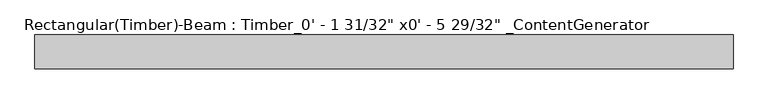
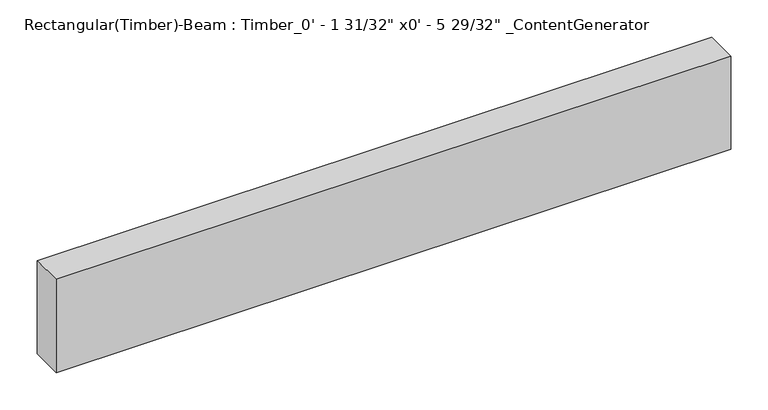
"""IFC4 building model written with IfcOpenShell, lengths in millimetres: beam geometry."""

import ifcopenshell
import ifcopenshell.guid

model = None  # the IFC model being written
_history = None  # IfcOwnerHistory: only IFC2X3 demands one
_inside = {}  # id of a spatial element -> (the spatial element, [elements in it])
_under = {}  # id of a project, library or spatial element -> (it, [spatial elements below it])
_declared = {}  # id of a project -> (the project, [libraries it declares])
_typed = {}  # id of a type object -> (the type object, [elements of that type])
_made_of = {}  # id of a material, layer set ... -> (it, [elements and type objects made of it])


def new_model(schema):
    """Start an empty IFC model of exactly this schema.

    Asked for "IFC4X3", IfcOpenShell would pick the latest addendum, in which some entities
    have other attributes; the version numbers below select the first issue.
    IFC2X3 requires an IfcOwnerHistory on every rooted entity: one is made here for all.
    """
    global model, _history
    if schema == "IFC4X3":
        model = ifcopenshell.file(schema_version=(4, 3, 0, 0))
    else:
        model = ifcopenshell.file(schema=schema)
    _inside.clear()
    _under.clear()
    _declared.clear()
    _typed.clear()
    _made_of.clear()
    _history = None
    if model.schema == "IFC2X3":
        org = make("IfcOrganization", Name="unknown")
        user = make(
            "IfcPersonAndOrganization",
            ThePerson=make("IfcPerson", FamilyName="unknown"),
            TheOrganization=org,
        )
        app = make(
            "IfcApplication",
            ApplicationDeveloper=org,
            Version="unknown",
            ApplicationFullName="unknown",
            ApplicationIdentifier="unknown",
        )
        _history = make(
            "IfcOwnerHistory",
            OwningUser=user,
            OwningApplication=app,
            ChangeAction="ADDED",
            CreationDate=0,
        )
    return model


def make(cls, **values):
    """One entity of the class cls with the attributes given. An attribute that is None is left unset."""
    return model.create_entity(
        cls, **{name: value for name, value in values.items() if value is not None}
    )


def rooted(cls, **values):
    """An entity with a GlobalId (a new one), such as an element, a storey or a relation."""
    return make(cls, GlobalId=ifcopenshell.guid.new(), OwnerHistory=_history, **values)


def si_unit(unit_type, name, prefix=None):
    """IfcSIUnit, for example si_unit("LENGTHUNIT", "METRE", prefix="MILLI")."""
    return make("IfcSIUnit", UnitType=unit_type, Prefix=prefix, Name=name)


def assignment(units):
    """IfcUnitAssignment: the units of a project."""
    return None if units is None else make("IfcUnitAssignment", Units=units)


def point(xyz):
    """IfcCartesianPoint."""
    return None if xyz is None else make("IfcCartesianPoint", Coordinates=xyz)


def direction(xyz):
    """IfcDirection."""
    return None if xyz is None else make("IfcDirection", DirectionRatios=xyz)


def frame(location, z_axis=None, x_axis=None):
    """IfcAxis2Placement3D, a coordinate frame: its origin and axes. An axis left out is left unset."""
    return make(
        "IfcAxis2Placement3D",
        Location=point(location),
        Axis=direction(z_axis),
        RefDirection=direction(x_axis),
    )


def origin():
    """The frame at (0, 0, 0) with its axes left unset."""
    return frame((0.0, 0.0, 0.0))


def place(relative_to, where):
    """IfcLocalPlacement: puts the frame where relative to a parent placement (None: the world)."""
    return make(
        "IfcLocalPlacement", PlacementRelTo=relative_to, RelativePlacement=where
    )


def context(
    kind, dimensions, precision=None, world=None, true_north=None, identifier=None
):
    """IfcGeometricRepresentationContext, for example the 3D "Model" context."""
    return make(
        "IfcGeometricRepresentationContext",
        ContextIdentifier=identifier,
        ContextType=kind,
        CoordinateSpaceDimension=dimensions,
        Precision=precision,
        WorldCoordinateSystem=world,
        TrueNorth=true_north,
    )


def project(units=None, contexts=None):
    """IfcProject with its units and contexts."""
    return rooted(
        "IfcProject",
        Name="project",
        RepresentationContexts=contexts,
        UnitsInContext=assignment(units),
    )


def spatial(cls, under=None, at=None, **own):
    """A site, building, storey or space (cls), placed at a placement, below another one or the project."""
    s = rooted(cls, ObjectPlacement=at, **own)
    if under is not None:
        _under.setdefault(under.id(), (under, []))[1].append(s)
    return s


def polyline(points):
    """IfcPolyline through the points."""
    return make("IfcPolyline", Points=[point(p) for p in points])


def outline(outer, holes=None, kind="AREA"):
    """IfcArbitraryClosedProfileDef: a profile drawn as a closed curve; with holes, ...WithVoids."""
    if holes is None:
        return make("IfcArbitraryClosedProfileDef", ProfileType=kind, OuterCurve=outer)
    return make(
        "IfcArbitraryProfileDefWithVoids",
        ProfileType=kind,
        OuterCurve=outer,
        InnerCurves=holes,
    )


def extrude(swept, where, along, depth):
    """IfcExtrudedAreaSolid: the profile swept, set in the frame where, extruded along a direction by depth."""
    return make(
        "IfcExtrudedAreaSolid",
        SweptArea=swept,
        Position=where,
        ExtrudedDirection=direction(along),
        Depth=depth,
    )


def shape(context_of_items, identifier, shape_type, items):
    """IfcShapeRepresentation: the items that make up one representation, for example the "Body"."""
    return make(
        "IfcShapeRepresentation",
        ContextOfItems=context_of_items,
        RepresentationIdentifier=identifier,
        RepresentationType=shape_type,
        Items=items,
    )


def source(mapping_origin, context_of_items, identifier, shape_type, items):
    """IfcRepresentationMap: a shape defined once, which mapped items show again and again."""
    return make(
        "IfcRepresentationMap",
        MappingOrigin=mapping_origin,
        MappedRepresentation=shape(context_of_items, identifier, shape_type, items),
    )


def transform(
    local_origin,
    x_axis=None,
    y_axis=None,
    z_axis=None,
    scale=None,
    scale2=None,
    scale3=None,
    uniform=True,
):
    """IfcCartesianTransformationOperator3D, or its non-uniform kind. x_axis, y_axis, z_axis: its Axis1, 2, 3."""
    if uniform:
        return make(
            "IfcCartesianTransformationOperator3D",
            Axis1=direction(x_axis),
            Axis2=direction(y_axis),
            LocalOrigin=point(local_origin),
            Scale=scale,
            Axis3=direction(z_axis),
        )
    return make(
        "IfcCartesianTransformationOperator3DnonUniform",
        Axis1=direction(x_axis),
        Axis2=direction(y_axis),
        LocalOrigin=point(local_origin),
        Scale=scale,
        Axis3=direction(z_axis),
        Scale2=scale2,
        Scale3=scale3,
    )


def mapped(mapping_source, mapping_target):
    """IfcMappedItem: shows the shape of a source again, moved by a transform."""
    return make(
        "IfcMappedItem", MappingSource=mapping_source, MappingTarget=mapping_target
    )


def made_of(thing, what):
    """Note that an element or type object is made of a material, layer set ...; save() writes the relation."""
    if what is not None:
        _made_of.setdefault(what.id(), (what, []))[1].append(thing)
    return thing


def element(
    cls,
    number,
    at=None,
    inside=None,
    cuts=None,
    type_object=None,
    material=None,
    context=None,
    identifier="Body",
    shape_type=None,
    held_by="IfcProductDefinitionShape",
    body=None,
    shapes=None,
    **own,
):
    """One element of the class cls, such as IfcWall. Its Tag is "e" and its number.

    at: its placement. inside: the storey or other place that contains it. cuts: it is an
    opening in that element (IfcRelVoidsElement). A single representation is given by context,
    identifier, shape_type and body (its items); several are given by shapes. held_by: the class
    of the entity that holds the representations. save() writes the other relations.
    """
    e = rooted(cls, Tag="e%d" % number, ObjectPlacement=at, **own)
    if body is not None:
        shapes = [shape(context, identifier, shape_type, body)]
    if shapes is not None:
        e.Representation = make(held_by, Representations=shapes)
    if inside is not None:
        _inside.setdefault(inside.id(), (inside, []))[1].append(e)
    if cuts is not None:
        rooted(
            "IfcRelVoidsElement", RelatingBuildingElement=cuts, RelatedOpeningElement=e
        )
    if type_object is not None:
        _typed.setdefault(type_object.id(), (type_object, []))[1].append(e)
    return made_of(e, material)


def aggregate(whole, parts):
    """IfcRelAggregates: a whole, such as a stair, and the parts it consists of."""
    return rooted("IfcRelAggregates", RelatingObject=whole, RelatedObjects=parts)


def save(model, path):
    """Write the relations noted so far, then the file.

    IfcRelAggregates (storeys below a building ...), IfcRelContainedInSpatialStructure (elements
    in a storey), IfcRelDefinesByType, IfcRelAssociatesMaterial and IfcRelDeclares: one each for
    every whole, place, type object, material and project.
    """
    for whole, parts in _under.values():
        aggregate(whole, parts)
    for where, things in _inside.values():
        rooted(
            "IfcRelContainedInSpatialStructure",
            RelatedElements=things,
            RelatingStructure=where,
        )
    for kind, things in _typed.values():
        rooted("IfcRelDefinesByType", RelatedObjects=things, RelatingType=kind)
    for what, things in _made_of.values():
        rooted("IfcRelAssociatesMaterial", RelatedObjects=things, RelatingMaterial=what)
    for by, libraries in _declared.values():
        rooted("IfcRelDeclares", RelatingContext=by, RelatedDefinitions=libraries)
    model.write(path)


def beam_7e436a35(model_context):
    return source(origin(), model_context, "Body", "SweptSolid", [
        extrude(outline(polyline([(522.0284875, 25.4), (522.0284875, -25.4), (-522.0284875, -25.4), (-522.0284875, 25.4), (522.0284875, 25.4)])), frame((0.0, 0.0, -76.2), z_axis=(0.0, 0.0, 1.0), x_axis=(1.0, 0.0, 0.0)), (0.0, 0.0, 1.0), 152.4),
    ])


if __name__ == "__main__":
    model = new_model("IFC4")
    model_context = context("Model", 3, world=origin())
    ifc_project = project(units=[si_unit("LENGTHUNIT", "METRE", prefix="MILLI")], contexts=[model_context])
    site = spatial("IfcSite", under=ifc_project)
    building = spatial("IfcBuilding", under=site)
    placement = place(None, origin())
    beam_shape = beam_7e436a35(model_context)
    element("IfcBeam", 1, ObjectType="Rectangular(Timber)-Beam : Timber_0' - 1 31/32\" x0' - 5 29/32\" _ContentGenerator", at=placement, inside=building, context=model_context, shape_type="MappedRepresentation", body=[
        mapped(beam_shape, transform((0.0, 0.0, 0.0), x_axis=(1.0, 0.0, 0.0), y_axis=(0.0, 1.0, 0.0), z_axis=(0.0, 0.0, 1.0))),
    ])
    save(model, "model.ifc")
